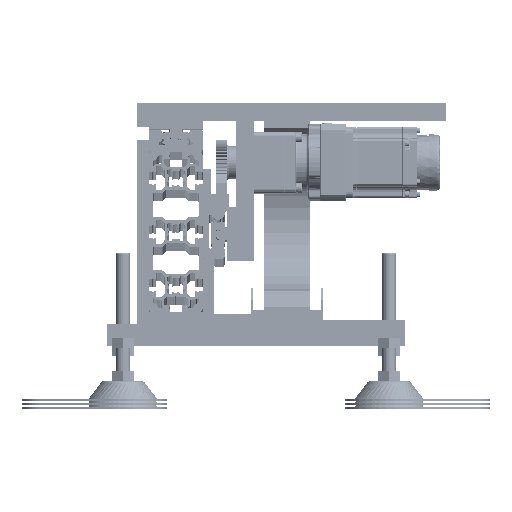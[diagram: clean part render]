
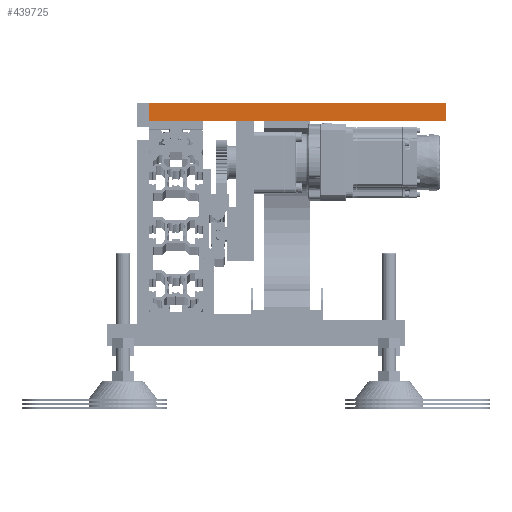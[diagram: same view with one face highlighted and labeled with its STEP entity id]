
A CAD part, top view. The second image highlights one B-rep face of the part: STEP entity #439725.
In plain terms, the highlighted planar face has unit normal (0, 0, 1).
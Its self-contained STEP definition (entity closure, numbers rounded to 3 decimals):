
#14529 = VERTEX_POINT ( 'NONE', #172531 ) ;
#15980 = DIRECTION ( 'NONE',  ( 0., 1., 0. ) ) ;
#36223 = ORIENTED_EDGE ( 'NONE', *, *, #299461, .T. ) ;
#62133 = LINE ( 'NONE', #249536, #90330 ) ;
#66521 = EDGE_CURVE ( 'NONE', #308986, #357739, #370100, .T. ) ;
#70413 = VECTOR ( 'NONE', #231830, 1000. ) ;
#90330 = VECTOR ( 'NONE', #15980, 1000. ) ;
#125852 = DIRECTION ( 'NONE',  ( 0., -1., 0. ) ) ;
#127584 = FACE_OUTER_BOUND ( 'NONE', #273782, .T. ) ;
#135121 = EDGE_CURVE ( 'NONE', #357739, #14529, #62133, .T. ) ;
#139730 = CARTESIAN_POINT ( 'NONE',  ( -141.909, 130.831, 1783.338 ) ) ;
#152573 = VECTOR ( 'NONE', #293144, 1000. ) ;
#162412 = CARTESIAN_POINT ( 'NONE',  ( -141.909, 145.831, 1783.338 ) ) ;
#172531 = CARTESIAN_POINT ( 'NONE',  ( 108.091, 145.831, 1783.338 ) ) ;
#174824 = CARTESIAN_POINT ( 'NONE',  ( -141.909, 130.831, 1783.338 ) ) ;
#210463 = PLANE ( 'NONE',  #227009 ) ;
#211894 = CARTESIAN_POINT ( 'NONE',  ( -141.909, 130.831, 1783.338 ) ) ;
#214801 = LINE ( 'NONE', #174824, #318094 ) ;
#227009 = AXIS2_PLACEMENT_3D ( 'NONE', #404017, #545271, #536293 ) ;
#231830 = DIRECTION ( 'NONE',  ( 1., 0., 0. ) ) ;
#249536 = CARTESIAN_POINT ( 'NONE',  ( 108.091, 130.831, 1783.338 ) ) ;
#266674 = ORIENTED_EDGE ( 'NONE', *, *, #135121, .T. ) ;
#273782 = EDGE_LOOP ( 'NONE', ( #36223, #351933, #266674, #545597 ) ) ;
#289933 = EDGE_CURVE ( 'NONE', #14529, #303532, #376106, .T. ) ;
#293144 = DIRECTION ( 'NONE',  ( -1., 0., 0. ) ) ;
#299461 = EDGE_CURVE ( 'NONE', #303532, #308986, #214801, .T. ) ;
#303532 = VERTEX_POINT ( 'NONE', #162412 ) ;
#308986 = VERTEX_POINT ( 'NONE', #211894 ) ;
#318094 = VECTOR ( 'NONE', #125852, 1000. ) ;
#351933 = ORIENTED_EDGE ( 'NONE', *, *, #66521, .T. ) ;
#357739 = VERTEX_POINT ( 'NONE', #481461 ) ;
#370100 = LINE ( 'NONE', #139730, #70413 ) ;
#376106 = LINE ( 'NONE', #526595, #152573 ) ;
#404017 = CARTESIAN_POINT ( 'NONE',  ( -141.909, 130.831, 1783.338 ) ) ;
#439725 = ADVANCED_FACE ( 'NONE', ( #127584 ), #210463, .F. ) ;
#481461 = CARTESIAN_POINT ( 'NONE',  ( 108.091, 130.831, 1783.338 ) ) ;
#526595 = CARTESIAN_POINT ( 'NONE',  ( -141.909, 145.831, 1783.338 ) ) ;
#536293 = DIRECTION ( 'NONE',  ( -1., 0., 0. ) ) ;
#545271 = DIRECTION ( 'NONE',  ( 0., 0., -1. ) ) ;
#545597 = ORIENTED_EDGE ( 'NONE', *, *, #289933, .T. ) ;
